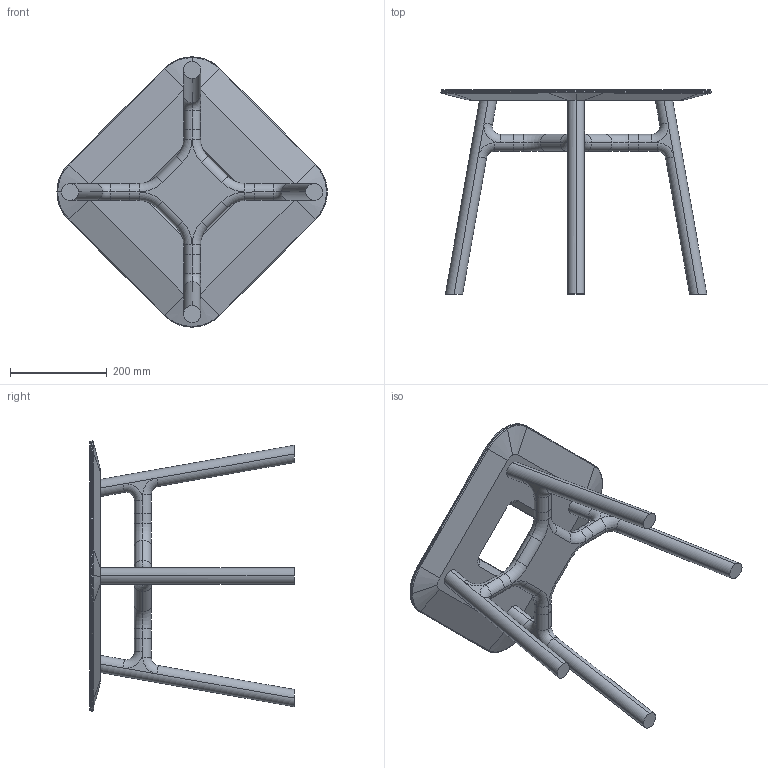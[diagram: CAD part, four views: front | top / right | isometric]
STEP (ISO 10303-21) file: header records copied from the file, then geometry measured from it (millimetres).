
FILE_DESCRIPTION (( 'STEP AP203' ), '1' );
FILE_NAME ('MARSHALL COFFE TABLE.STEP', '2020-07-09T07:41:49', ( '' ), ( '' ), 'SwSTEP 2.0', 'SolidWorks 2020', '' );
FILE_SCHEMA (( 'CONFIG_CONTROL_DESIGN' ));
Length unit declared in the file: millimetre
Products named in the file (2): Group1^club sto MARSHAL_defeature; MARSHALL COFFE TABLE
Assembly tree (1 placements, depth 2):
  MARSHALL COFFE TABLE
    Group1^club sto MARSHAL_defeature
Bounding box: 557.67 x 422 x 557.98 mm (x, y, z)
Volume: 5708240.4 mm3; surface area: 636644.3 mm2
Topology: 1 solids, 1 shells, 204 faces, 466 edges, 264 vertices
Faces by surface type: cylinder 98, torus 53, plane 42, cone 11
Entity records: 5879 total; most frequent: DIRECTION 1087, CARTESIAN_POINT 1034, ORIENTED_EDGE 932, EDGE_CURVE 466, AXIS2_PLACEMENT_3D 445, VERTEX_POINT 264, CIRCLE 237, EDGE_LOOP 212
